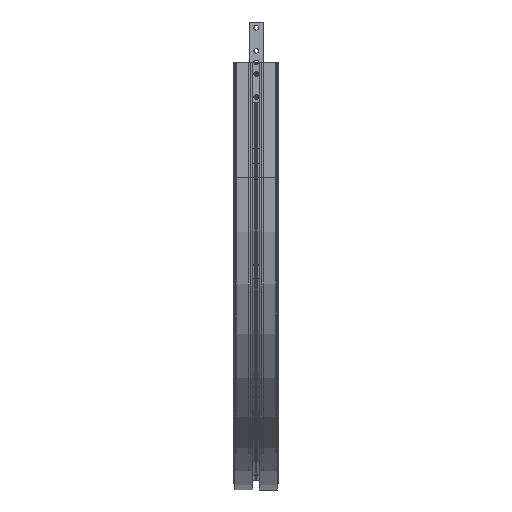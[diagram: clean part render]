
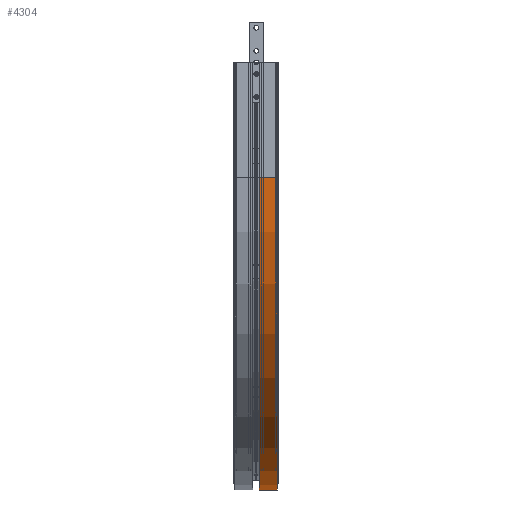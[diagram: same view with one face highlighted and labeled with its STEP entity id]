
A CAD part, left-side view. The second image highlights one B-rep face of the part: STEP entity #4304.
In plain terms, the highlighted cylindrical face has radius 542.5 mm (diameter 1085 mm), a partial arc.
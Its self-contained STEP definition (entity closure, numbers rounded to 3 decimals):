
#186 = CARTESIAN_POINT ( 'NONE',  ( 200., 31.39, -42.5 ) ) ;
#188 = CARTESIAN_POINT ( 'NONE',  ( 200., 0., -42.5 ) ) ;
#192 = CARTESIAN_POINT ( 'NONE',  ( 200., 0., 1042.5 ) ) ;
#194 = CARTESIAN_POINT ( 'NONE',  ( 200., 31.39, 1042.5 ) ) ;
#1499 = ORIENTED_EDGE ( 'NONE', *, *, #3346, .F. ) ;
#1510 = ORIENTED_EDGE ( 'NONE', *, *, #3347, .F. ) ;
#3343 = EDGE_CURVE ( 'NONE', #7361, #7357, #4893, .T. ) ;
#3346 = EDGE_CURVE ( 'NONE', #7363, #7355, #4888, .T. ) ;
#3347 = EDGE_CURVE ( 'NONE', #7361, #7363, #9574, .T. ) ;
#3348 = EDGE_CURVE ( 'NONE', #7357, #7355, #9579, .T. ) ;
#4304 = ADVANCED_FACE ( 'NONE', ( #19557 ), #19556, .T. ) ;
#4885 = VECTOR ( 'NONE', #9581, 1000. ) ;
#4886 = AXIS2_PLACEMENT_3D ( 'NONE', #9575, #9576, #9577 ) ;
#4888 = CIRCLE ( 'NONE', #4886, 542.5 ) ;
#4890 = AXIS2_PLACEMENT_3D ( 'NONE', #9566, #9567, #9568 ) ;
#4891 = VECTOR ( 'NONE', #9578, 1000. ) ;
#4893 = CIRCLE ( 'NONE', #4890, 542.5 ) ;
#7355 = VERTEX_POINT ( 'NONE', #186 ) ;
#7357 = VERTEX_POINT ( 'NONE', #188 ) ;
#7361 = VERTEX_POINT ( 'NONE', #192 ) ;
#7363 = VERTEX_POINT ( 'NONE', #194 ) ;
#9557 = CARTESIAN_POINT ( 'NONE',  ( 200., 0., 1042.5 ) ) ;
#9566 = CARTESIAN_POINT ( 'NONE',  ( 200., 0., 500. ) ) ;
#9567 = DIRECTION ( 'NONE',  ( 0., 1., 0. ) ) ;
#9568 = DIRECTION ( 'NONE',  ( 0., 0., 1. ) ) ;
#9574 = LINE ( 'NONE', #9557, #4891 ) ;
#9575 = CARTESIAN_POINT ( 'NONE',  ( 200., 31.39, 500. ) ) ;
#9576 = DIRECTION ( 'NONE',  ( 0., 1., 0. ) ) ;
#9577 = DIRECTION ( 'NONE',  ( 0., 0., 1. ) ) ;
#9578 = DIRECTION ( 'NONE',  ( 0., 1., 0. ) ) ;
#9579 = LINE ( 'NONE', #9580, #4885 ) ;
#9580 = CARTESIAN_POINT ( 'NONE',  ( 200., 0., -42.5 ) ) ;
#9581 = DIRECTION ( 'NONE',  ( 0., 1., 0. ) ) ;
#12953 = AXIS2_PLACEMENT_3D ( 'NONE', #19551, #19553, #19559 ) ;
#13100 = EDGE_LOOP ( 'NONE', ( #1499, #1510, #15473, #15472 ) ) ;
#15472 = ORIENTED_EDGE ( 'NONE', *, *, #3348, .T. ) ;
#15473 = ORIENTED_EDGE ( 'NONE', *, *, #3343, .T. ) ;
#19551 = CARTESIAN_POINT ( 'NONE',  ( 200., 0., 500. ) ) ;
#19553 = DIRECTION ( 'NONE',  ( 0., 1., 0. ) ) ;
#19556 = CYLINDRICAL_SURFACE ( 'NONE', #12953, 542.5 ) ;
#19557 = FACE_OUTER_BOUND ( 'NONE', #13100, .T. ) ;
#19559 = DIRECTION ( 'NONE',  ( 0., 0., 1. ) ) ;
